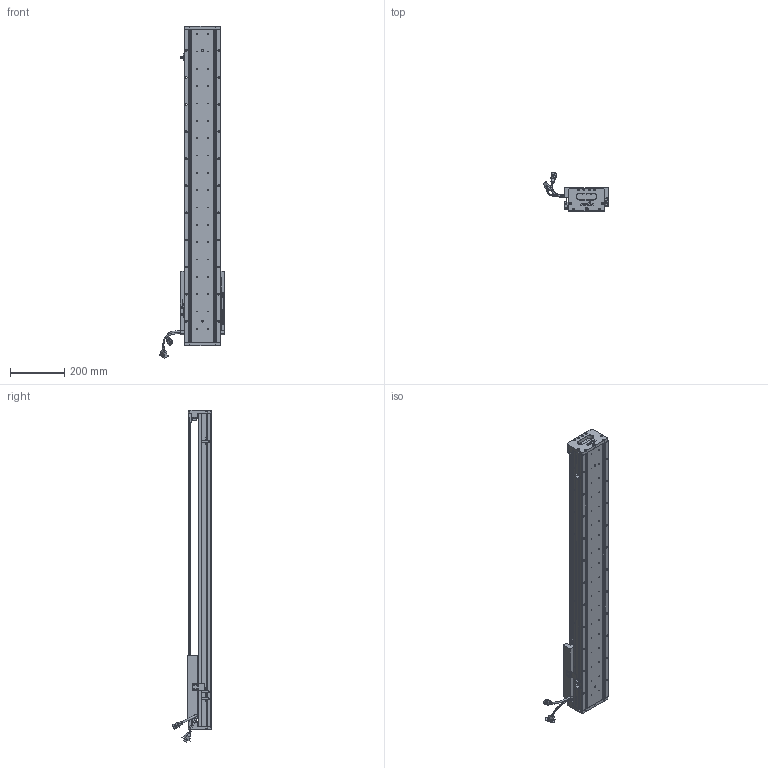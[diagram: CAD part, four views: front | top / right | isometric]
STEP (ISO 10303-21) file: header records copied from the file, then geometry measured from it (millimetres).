
FILE_DESCRIPTION (( 'STEP AP203' ), '1' );
FILE_NAME ('Z3-RY140D-1-L500-B-K.SLDASM_0850.step', '2021-05-17T08:00:50', ( '盈信电脑' ), ( '东莞市道滘镇水果街19号' ), 'SwSTEP 2.0', 'SolidWorks 2016', '' );
FILE_SCHEMA (( 'CONFIG_CONTROL_DESIGN' ));
Length unit declared in the file: millimetre
Products named in the file (36): 140-Z-臏賑輸盄裔(21遴); SCREW-M1.6-1; Z3-RY140-L500直线电机模组底座_0850; 覜茼ん672; SCREW-M1.6-3; COVER-Part-1; SCREW-M1.7-1; PSLH080_PSLF2; SHIELDPLATE; HARNESS; Z3-RY140-L500詩湍100mm遵_0850; SCREW-M1.7; HARNESS-Part-1; LABEL; HARNESS-Part-2; Z-140詩湍傷裔啣; SCALE; 榋妏寠巭燃_暯_M2_2; Z-RY140詩湍狟揤裔; SEAL; Z-RY140感应器672光电感应片; SEAL-Part-1; LABEL-Part-1; 140雄赽晤鎢ん堤盄; 140蚥薯蝶輸; PBU_SHEET; SCREW-M1.6; Z3-RY140圉猾敕臏賑輸(21遴); Z3-RY140D-1-L500-B-K.SLDASM_0850; SCALE-Part-2; Z-RY140詩湍奻揤裔; SCREW-M1.6-2; 080黍杅芛假蚾釱21遴; SCALE-Part-1; HOLDER0; COVER
Assembly tree (41 placements, depth 4):
  Z3-RY140D-1-L500-B-K.SLDASM_0850
    Z3-RY140-L500直线电机模组底座_0850
    Z-RY140感应器672光电感应片
    Z3-RY140圉猾敕臏賑輸(21遴)
    覜茼ん672  x3
    Z3-RY140-L500詩湍100mm遵_0850
    PSLH080_PSLF2
      SCALE
        SCALE-Part-1
        SCALE-Part-2
      HARNESS
        HARNESS-Part-1
        HARNESS-Part-2
      LABEL
        LABEL-Part-1
      COVER
        COVER-Part-1
      SEAL
        SEAL-Part-1
      榋妏寠巭燃_暯_M2_2
      SHIELDPLATE
      SCREW-M1.7
      SCREW-M1.7-1
      PBU_SHEET
      SCREW-M1.6
      SCREW-M1.6-1
      SCREW-M1.6-2
      SCREW-M1.6-3
      HOLDER0
    080黍杅芛假蚾釱21遴
    140-Z-臏賑輸盄裔(21遴)
    Z-140詩湍傷裔啣  x2
    Z-RY140詩湍狟揤裔  x2
    Z-RY140詩湍奻揤裔  x2
    140蚥薯蝶輸  x2
    140雄赽晤鎢ん堤盄
Bounding box: 239.84 x 143.88 x 1225.88 mm (x, y, z)
Volume: 4473034.8 mm3; surface area: 1153670.4 mm2
Topology: 36 solids, 36 shells, 3054 faces, 8074 edges, 5107 vertices
Faces by surface type: cylinder 1464, plane 1158, cone 310, torus 69, bspline 53
Entity records: 90174 total; most frequent: CARTESIAN_POINT 22995, ORIENTED_EDGE 13252, DIRECTION 13050, EDGE_CURVE 6626, AXIS2_PLACEMENT_3D 4810, VERTEX_POINT 4275, VECTOR 3430, LINE 3430
